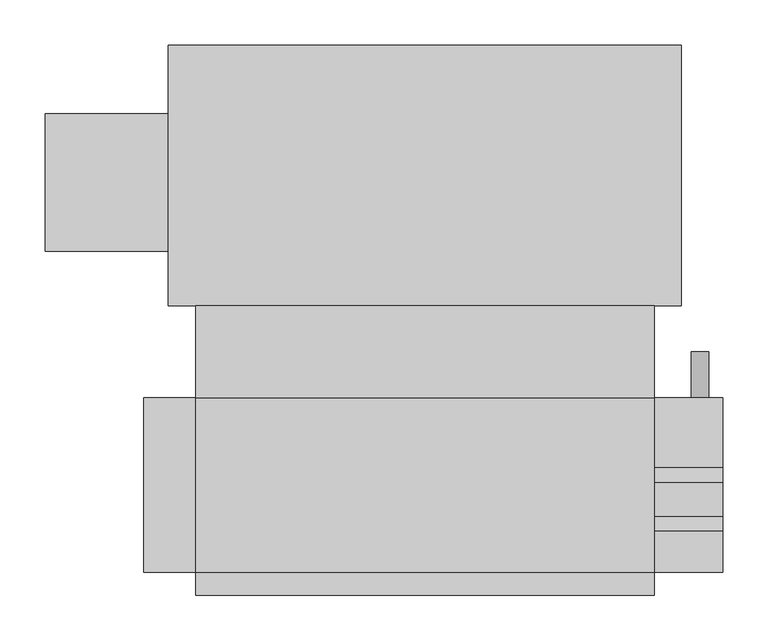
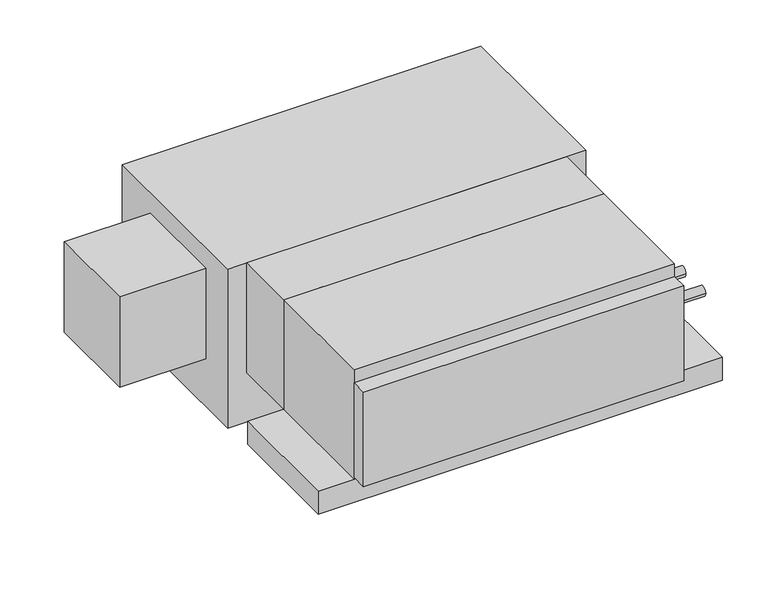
"""IFC4 building model written with IfcOpenShell, lengths in millimetres: proxy geometry, Concealed_Horizontal_Fan_Coil_Unit_With_Plenum_-_42CEA_-_CARRIER_-_2-Pipe_Cool-EHeat_RH_2022 : Size 03 - 277v/60Hz/1Ph - 4 Row 3.0kW."""

from ifc_helpers import new_model, si_unit, point, frame, frame_2d, origin, place, context, project, spatial, polyline, circle_curve, trimmed, segment, composite_curve, outline, extrude, source, transform, mapped, element, save


def mechanical_equipment_dbd0a457(model_context):
    return source(origin(), model_context, "Body", "SweptSolid", [
        extrude(outline(composite_curve([segment(trimmed(circle_curve(frame_2d((-280.9875, -104.775)), 7.9375), [point((-273.05, -104.775))], [point((-288.925, -104.775))], False, "CARTESIAN"), True, "CONTINUOUS"), segment(trimmed(circle_curve(frame_2d((-280.9875, -104.775)), 7.9375), [point((-288.925, -104.775))], [point((-273.05, -104.775))], False, "CARTESIAN"), True, "CONTINUOUS")], self_intersect=False)), frame((406.4, 0.0, 0.0), z_axis=(1.0, 0.0, 0.0), x_axis=(0.0, 1.0, 0.0)), (0.0, 0.0, 1.0), 76.2),
        extrude(outline(composite_curve([segment(trimmed(circle_curve(frame_2d((-227.0125, -104.775)), 7.9375), [point((-219.075, -104.775))], [point((-234.95, -104.775))], False, "CARTESIAN"), True, "CONTINUOUS"), segment(trimmed(circle_curve(frame_2d((-227.0125, -104.775)), 7.9375), [point((-234.95, -104.775))], [point((-219.075, -104.775))], False, "CARTESIAN"), True, "CONTINUOUS")], self_intersect=False)), frame((406.4, 0.0, 0.0), z_axis=(1.0, 0.0, 0.0), x_axis=(0.0, 1.0, 0.0)), (0.0, 0.0, 1.0), 76.2),
        extrude(outline(composite_curve([segment(trimmed(circle_curve(frame_2d((-209.55, 457.2)), 9.525), [point((-209.55, 447.675))], [point((-209.55, 466.725))], False, "CARTESIAN"), True, "CONTINUOUS"), segment(trimmed(circle_curve(frame_2d((-209.55, 457.2)), 9.525), [point((-209.55, 466.725))], [point((-209.55, 447.675))], False, "CARTESIAN"), True, "CONTINUOUS")], self_intersect=False)), frame((0.0, -141.2875, 0.0), z_axis=(0.0, 1.0, 0.0), x_axis=(0.0, 0.0, 1.0)), (0.0, 0.0, 1.0), 50.8),
        extrude(outline(polyline([(-101.6, -39.6875), (406.4, -39.6875), (406.4, -141.2875), (-101.6, -141.2875), (-101.6, -39.6875)])), frame((0.0, 0.0, -184.15), z_axis=(0.0, 0.0, 1.0), x_axis=(1.0, 0.0, 0.0)), (0.0, 0.0, 1.0), 184.15),
        extrude(outline(polyline([(406.4, -360.3625), (-101.6, -360.3625), (-101.6, -334.9625), (406.4, -334.9625), (406.4, -360.3625)])), frame((0.0, 0.0, -180.975), z_axis=(0.0, 0.0, 1.0), x_axis=(1.0, 0.0, 0.0)), (0.0, 0.0, 1.0), 158.75),
        extrude(outline(polyline([(-268.2875, 20.6375), (-268.2875, 173.0375), (-131.7625, 173.0375), (-131.7625, 20.6375), (-268.2875, 20.6375)])), frame((0.0, 0.0, -187.325), z_axis=(0.0, 0.0, 1.0), x_axis=(1.0, 0.0, 0.0)), (0.0, 0.0, 1.0), 152.4),
        extrude(outline(polyline([(-131.7625, 249.2375), (436.5625, 249.2375), (436.5625, -39.6875), (-131.7625, -39.6875), (-131.7625, 249.2375)])), frame((0.0, 0.0, -266.7), z_axis=(0.0, 0.0, 1.0), x_axis=(1.0, 0.0, 0.0)), (0.0, 0.0, 1.0), 266.7),
        extrude(outline(polyline([(406.4, -141.2875), (406.4, -334.9625), (-101.6, -334.9625), (-101.6, -141.2875), (406.4, -141.2875)])), frame((0.0, 0.0, -184.15), z_axis=(0.0, 0.0, 1.0), x_axis=(1.0, 0.0, 0.0)), (0.0, 0.0, 1.0), 184.15),
        extrude(outline(polyline([(482.6, -141.2875), (482.6, -334.9625), (-158.75, -334.9625), (-158.75, -141.2875), (482.6, -141.2875)])), frame((0.0, 0.0, -222.25), z_axis=(0.0, 0.0, 1.0), x_axis=(1.0, 0.0, 0.0)), (0.0, 0.0, 1.0), 38.1),
    ])


if __name__ == "__main__":
    model = new_model("IFC4")
    model_context = context("Model", 3, world=origin())
    ifc_project = project(units=[si_unit("LENGTHUNIT", "METRE", prefix="MILLI")], contexts=[model_context])
    site = spatial("IfcSite", under=ifc_project)
    building = spatial("IfcBuilding", under=site)
    placement = place(None, origin())
    mechanical_equipment_shape = mechanical_equipment_dbd0a457(model_context)
    element("IfcBuildingElementProxy", 1, Name="Concealed_Horizontal_Fan_Coil_Unit_With_Plenum_-_42CEA_-_CARRIER_-_2-Pipe_Cool-EHeat_RH_2022 : Size 03 - 277v/60Hz/1Ph - 4 Row 3.0kW", ObjectType="Concealed_Horizontal_Fan_Coil_Unit_With_Plenum_-_42CEA_-_CARRIER_-_2-Pipe_Cool-EHeat_RH_2022 : Size 03 - 277v/60Hz/1Ph - 4 Row 3.0kW", at=placement, inside=building, context=model_context, shape_type="MappedRepresentation", body=[
        mapped(mechanical_equipment_shape, transform((0.0, 0.0, 0.0), x_axis=(1.0, 0.0, 0.0), y_axis=(0.0, 1.0, 0.0), z_axis=(0.0, 0.0, 1.0))),
    ])
    save(model, "model.ifc")
